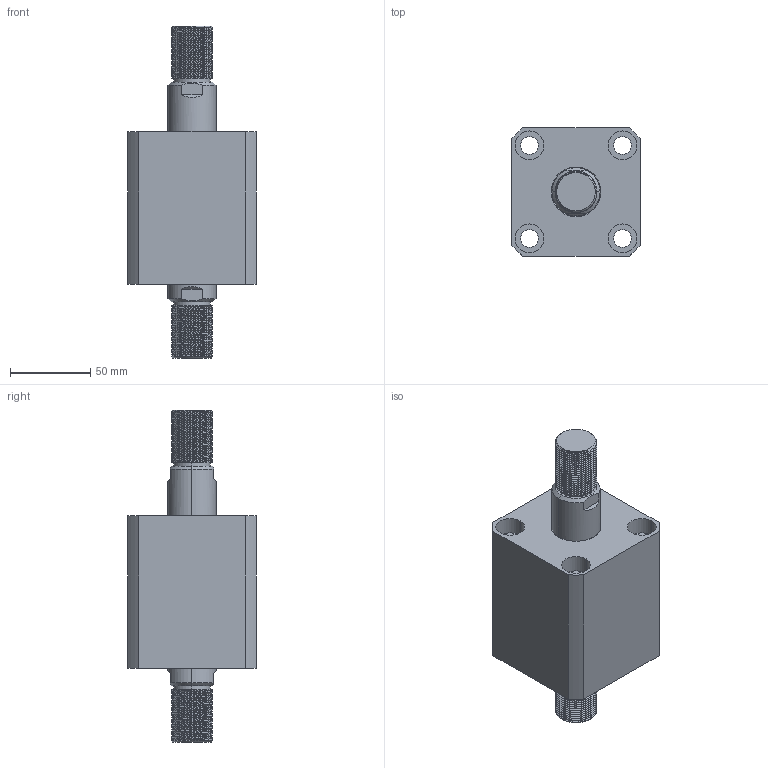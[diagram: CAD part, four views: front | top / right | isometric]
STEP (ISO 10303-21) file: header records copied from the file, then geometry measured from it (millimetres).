
FILE_DESCRIPTION (( 'STEP AP203' ), '1' );
FILE_NAME ('CHTB-SW50-20W.STEP', '2018-05-21T05:48:56', ( '' ), ( '' ), 'SwSTEP 2.0', 'SolidWorks 2015', '' );
FILE_SCHEMA (( 'CONFIG_CONTROL_DESIGN' ));
Length unit declared in the file: millimetre
Products named in the file (4): ヶ裔; 掛极SW50-20W; 活塞杆SW50-20W; CHTB-SW50-20W
Assembly tree (3 placements, depth 2):
  CHTB-SW50-20W
    掛极SW50-20W
    活塞杆SW50-20W
    ヶ裔
Bounding box: 80 x 80 x 207 mm (x, y, z)
Volume: 579933 mm3; surface area: 113816.6 mm2
Topology: 3 solids, 3 shells, 315 faces, 795 edges, 514 vertices
Faces by surface type: cylinder 202, plane 52, cone 29, torus 24, bspline 8
Entity records: 17308 total; most frequent: CARTESIAN_POINT 9960, ORIENTED_EDGE 1582, DIRECTION 1364, EDGE_CURVE 791, AXIS2_PLACEMENT_3D 550, VERTEX_POINT 514, EDGE_LOOP 363, FACE_OUTER_BOUND 315
